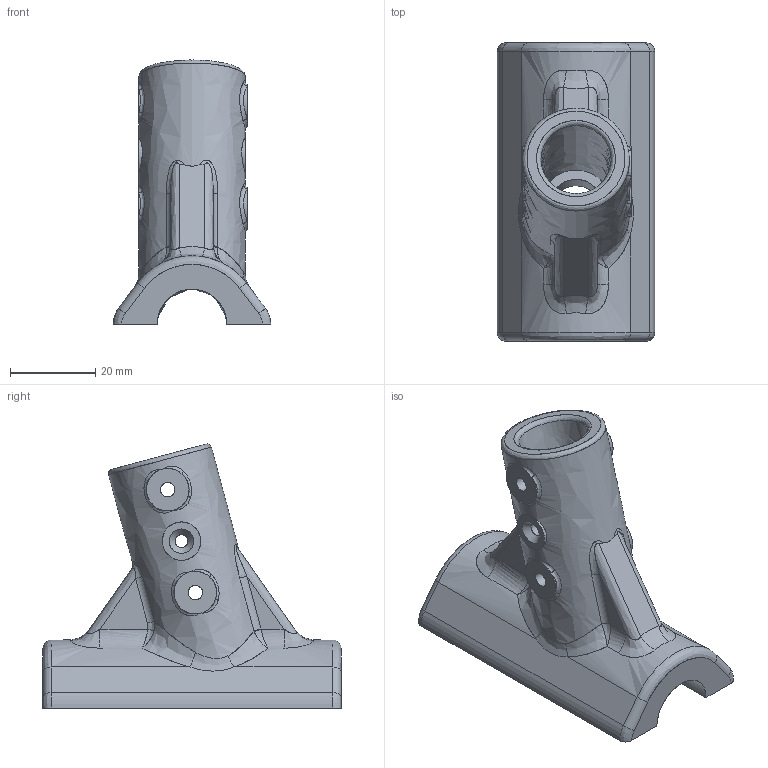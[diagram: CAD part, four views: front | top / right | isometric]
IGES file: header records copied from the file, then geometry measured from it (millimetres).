
Global section: file name: C:\Users\gehrichcr\Documents\1 Drive Backup\Practice\Inspire\V1.5\IGES\Boom Outer Joint 2 15Deg L.igs; native system: NX V8.5; preprocessor: SIEMENS PLM Software NX 8.5; date: 20150615.140221; units: millimetre
Bounding box: 37 x 70 x 61.98 mm (x, y, z)
Surface area: 15279.8 mm2 (no closed solid volume)
Topology: 0 solids, 0 shells, 166 faces, 1208 edges, 1146 vertices
Faces by surface type: bspline 166
